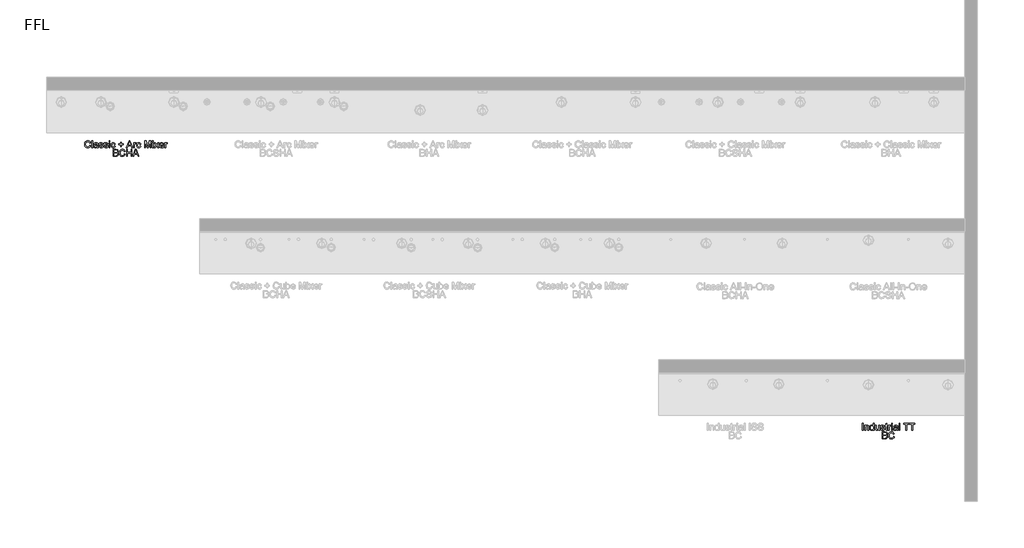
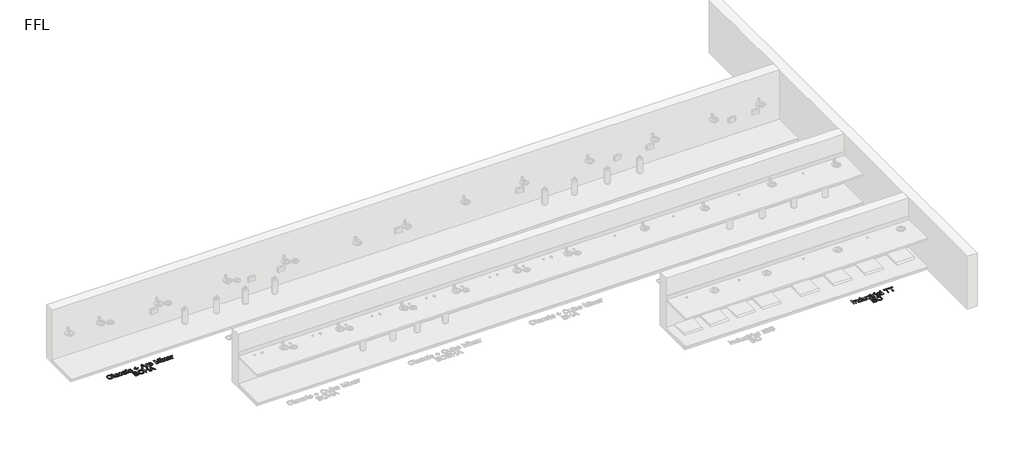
# One storey, part 5 of 13: 2 proxies.
"""IFC4 building model written with IfcOpenShell, lengths in millimetres."""

import ifcopenshell
import ifcopenshell.guid

model = None  # the IFC model being written
_history = None  # IfcOwnerHistory: only IFC2X3 demands one
_inside = {}  # id of a spatial element -> (the spatial element, [elements in it])
_under = {}  # id of a project, library or spatial element -> (it, [spatial elements below it])
_declared = {}  # id of a project -> (the project, [libraries it declares])
_typed = {}  # id of a type object -> (the type object, [elements of that type])
_made_of = {}  # id of a material, layer set ... -> (it, [elements and type objects made of it])


def new_model(schema):
    """Start an empty IFC model of exactly this schema.

    Asked for "IFC4X3", IfcOpenShell would pick the latest addendum, in which some entities
    have other attributes; the version numbers below select the first issue.
    IFC2X3 requires an IfcOwnerHistory on every rooted entity: one is made here for all.
    """
    global model, _history
    if schema == "IFC4X3":
        model = ifcopenshell.file(schema_version=(4, 3, 0, 0))
    else:
        model = ifcopenshell.file(schema=schema)
    _inside.clear()
    _under.clear()
    _declared.clear()
    _typed.clear()
    _made_of.clear()
    _history = None
    if model.schema == "IFC2X3":
        org = make("IfcOrganization", Name="unknown")
        user = make(
            "IfcPersonAndOrganization",
            ThePerson=make("IfcPerson", FamilyName="unknown"),
            TheOrganization=org,
        )
        app = make(
            "IfcApplication",
            ApplicationDeveloper=org,
            Version="unknown",
            ApplicationFullName="unknown",
            ApplicationIdentifier="unknown",
        )
        _history = make(
            "IfcOwnerHistory",
            OwningUser=user,
            OwningApplication=app,
            ChangeAction="ADDED",
            CreationDate=0,
        )
    return model


def make(cls, **values):
    """One entity of the class cls with the attributes given. An attribute that is None is left unset."""
    return model.create_entity(
        cls, **{name: value for name, value in values.items() if value is not None}
    )


def rooted(cls, **values):
    """An entity with a GlobalId (a new one), such as an element, a storey or a relation."""
    return make(cls, GlobalId=ifcopenshell.guid.new(), OwnerHistory=_history, **values)


def si_unit(unit_type, name, prefix=None):
    """IfcSIUnit, for example si_unit("LENGTHUNIT", "METRE", prefix="MILLI")."""
    return make("IfcSIUnit", UnitType=unit_type, Prefix=prefix, Name=name)


def assignment(units):
    """IfcUnitAssignment: the units of a project."""
    return None if units is None else make("IfcUnitAssignment", Units=units)


def point(xyz):
    """IfcCartesianPoint."""
    return None if xyz is None else make("IfcCartesianPoint", Coordinates=xyz)


def direction(xyz):
    """IfcDirection."""
    return None if xyz is None else make("IfcDirection", DirectionRatios=xyz)


def frame(location, z_axis=None, x_axis=None):
    """IfcAxis2Placement3D, a coordinate frame: its origin and axes. An axis left out is left unset."""
    return make(
        "IfcAxis2Placement3D",
        Location=point(location),
        Axis=direction(z_axis),
        RefDirection=direction(x_axis),
    )


def origin():
    """The frame at (0, 0, 0) with its axes left unset."""
    return frame((0.0, 0.0, 0.0))


def origin_with_axes():
    """The frame at (0, 0, 0) with the z axis (0, 0, 1) and the x axis (1, 0, 0) written out."""
    return frame((0.0, 0.0, 0.0), z_axis=(0.0, 0.0, 1.0), x_axis=(1.0, 0.0, 0.0))


def place(relative_to, where):
    """IfcLocalPlacement: puts the frame where relative to a parent placement (None: the world)."""
    return make(
        "IfcLocalPlacement", PlacementRelTo=relative_to, RelativePlacement=where
    )


def context(
    kind, dimensions, precision=None, world=None, true_north=None, identifier=None
):
    """IfcGeometricRepresentationContext, for example the 3D "Model" context."""
    return make(
        "IfcGeometricRepresentationContext",
        ContextIdentifier=identifier,
        ContextType=kind,
        CoordinateSpaceDimension=dimensions,
        Precision=precision,
        WorldCoordinateSystem=world,
        TrueNorth=true_north,
    )


def project(units=None, contexts=None):
    """IfcProject with its units and contexts."""
    return rooted(
        "IfcProject",
        Name="project",
        RepresentationContexts=contexts,
        UnitsInContext=assignment(units),
    )


def spatial(cls, under=None, at=None, **own):
    """A site, building, storey or space (cls), placed at a placement, below another one or the project."""
    s = rooted(cls, ObjectPlacement=at, **own)
    if under is not None:
        _under.setdefault(under.id(), (under, []))[1].append(s)
    return s


def polyline(points):
    """IfcPolyline through the points."""
    return make("IfcPolyline", Points=[point(p) for p in points])


def outline(outer, holes=None, kind="AREA"):
    """IfcArbitraryClosedProfileDef: a profile drawn as a closed curve; with holes, ...WithVoids."""
    if holes is None:
        return make("IfcArbitraryClosedProfileDef", ProfileType=kind, OuterCurve=outer)
    return make(
        "IfcArbitraryProfileDefWithVoids",
        ProfileType=kind,
        OuterCurve=outer,
        InnerCurves=holes,
    )


def extrude(swept, where, along, depth):
    """IfcExtrudedAreaSolid: the profile swept, set in the frame where, extruded along a direction by depth."""
    return make(
        "IfcExtrudedAreaSolid",
        SweptArea=swept,
        Position=where,
        ExtrudedDirection=direction(along),
        Depth=depth,
    )


def shape(context_of_items, identifier, shape_type, items):
    """IfcShapeRepresentation: the items that make up one representation, for example the "Body"."""
    return make(
        "IfcShapeRepresentation",
        ContextOfItems=context_of_items,
        RepresentationIdentifier=identifier,
        RepresentationType=shape_type,
        Items=items,
    )


def made_of(thing, what):
    """Note that an element or type object is made of a material, layer set ...; save() writes the relation."""
    if what is not None:
        _made_of.setdefault(what.id(), (what, []))[1].append(thing)
    return thing


def element(
    cls,
    number,
    at=None,
    inside=None,
    cuts=None,
    type_object=None,
    material=None,
    context=None,
    identifier="Body",
    shape_type=None,
    held_by="IfcProductDefinitionShape",
    body=None,
    shapes=None,
    **own,
):
    """One element of the class cls, such as IfcWall. Its Tag is "e" and its number.

    at: its placement. inside: the storey or other place that contains it. cuts: it is an
    opening in that element (IfcRelVoidsElement). A single representation is given by context,
    identifier, shape_type and body (its items); several are given by shapes. held_by: the class
    of the entity that holds the representations. save() writes the other relations.
    """
    e = rooted(cls, Tag="e%d" % number, ObjectPlacement=at, **own)
    if body is not None:
        shapes = [shape(context, identifier, shape_type, body)]
    if shapes is not None:
        e.Representation = make(held_by, Representations=shapes)
    if inside is not None:
        _inside.setdefault(inside.id(), (inside, []))[1].append(e)
    if cuts is not None:
        rooted(
            "IfcRelVoidsElement", RelatingBuildingElement=cuts, RelatedOpeningElement=e
        )
    if type_object is not None:
        _typed.setdefault(type_object.id(), (type_object, []))[1].append(e)
    return made_of(e, material)


def aggregate(whole, parts):
    """IfcRelAggregates: a whole, such as a stair, and the parts it consists of."""
    return rooted("IfcRelAggregates", RelatingObject=whole, RelatedObjects=parts)


def save(model, path):
    """Write the relations noted so far, then the file.

    IfcRelAggregates (storeys below a building ...), IfcRelContainedInSpatialStructure (elements
    in a storey), IfcRelDefinesByType, IfcRelAssociatesMaterial and IfcRelDeclares: one each for
    every whole, place, type object, material and project.
    """
    for whole, parts in _under.values():
        aggregate(whole, parts)
    for where, things in _inside.values():
        rooted(
            "IfcRelContainedInSpatialStructure",
            RelatedElements=things,
            RelatingStructure=where,
        )
    for kind, things in _typed.values():
        rooted("IfcRelDefinesByType", RelatedObjects=things, RelatingType=kind)
    for what, things in _made_of.values():
        rooted("IfcRelAssociatesMaterial", RelatedObjects=things, RelatingMaterial=what)
    for by, libraries in _declared.values():
        rooted("IfcRelDeclares", RelatingContext=by, RelatedDefinitions=libraries)
    model.write(path)


model = new_model("IFC4")

# Units and contexts
model_context = context("Model", 3, world=origin())
ifc_project = project(units=[si_unit("LENGTHUNIT", "METRE", prefix="MILLI")], contexts=[model_context])

# Site, building, storey
site = spatial("IfcSite", under=ifc_project)
building = spatial("IfcBuilding", under=site)
storey = spatial("IfcBuildingStorey", under=building, Name="FFL", Elevation=0.0)

# Proxies
placement = place(None, origin())
element("IfcBuildingElementProxy", 1, Name="150mm Arial", ObjectType="150mm Arial", at=placement, inside=storey, context=model_context, shape_type="SweptSolid", body=[
    extrude(outline(polyline([(10353.2380409, -2376.1981691), (10353.2380409, -2228.5058614), (10371.6995794, -2228.5058614), (10371.6995794, -2376.1981691), (10353.2380409, -2376.1981691)])), origin_with_axes(), (0.0, 0.0, 1.0), 5.0),
    extrude(outline(polyline([(10406.314964, -2376.1981691), (10406.314964, -2267.7366307), (10424.7765025, -2267.7366307), (10424.7765025, -2282.8808614), (10438.893089, -2269.7919191), (10458.1659255, -2265.4289383), (10475.5998198, -2268.9445633), (10487.4988582, -2278.1753326), (10493.033714, -2291.7510537), (10494.0072717, -2309.5996114), (10494.0072717, -2376.1981691), (10475.5457332, -2376.1981691), (10475.5457332, -2312.0875922), (10473.4183294, -2295.7534576), (10465.9003005, -2287.1176403), (10453.2260217, -2283.8904768), (10442.4132212, -2285.7023758), (10433.1959736, -2291.138073), (10426.8813703, -2301.6398758), (10424.7765025, -2318.6500922), (10424.7765025, -2376.1981691), (10406.314964, -2376.1981691)])), origin_with_axes(), (0.0, 0.0, 1.0), 5.0),
    extrude(outline(polyline([(10586.314964, -2376.1981691), (10586.314964, -2358.7823037), (10574.1004207, -2373.574972), (10557.2164063, -2378.5058614), (10545.2813102, -2376.7210057), (10534.3558294, -2371.3664383), (10525.1070313, -2362.8162581), (10518.2019832, -2351.4445633), (10513.9021034, -2337.7110898), (10512.4688102, -2322.075573), (10517.7512621, -2292.6885537), (10524.3498198, -2281.0329047), (10533.580589, -2272.4601883), (10544.744952, -2267.1867508), (10557.1442909, -2265.4289383), (10574.1635217, -2270.4589864), (10586.314964, -2283.5298999), (10586.314964, -2228.5058614), (10604.7765025, -2228.5058614), (10604.7765025, -2376.1981691), (10586.314964, -2376.1981691)]), holes=[polyline([(10530.9303486, -2322.0034576), (10533.0126803, -2338.7026763), (10539.2596755, -2350.5791787), (10548.3371996, -2357.6780369), (10558.9111178, -2360.044323), (10569.4805289, -2357.78621), (10578.3281852, -2351.011871), (10584.3182693, -2339.5951042), (10586.314964, -2323.4097076), (10584.2822116, -2305.7143951), (10578.1839544, -2293.4457653), (10569.1109376, -2286.2792989), (10558.1539063, -2283.8904768), (10547.471815, -2286.1846475), (10538.7188102, -2293.0671595), (10532.877464, -2304.8895754), (10530.9303486, -2322.0034576)])]), origin_with_axes(), (0.0, 0.0, 1.0), 5.0),
    extrude(outline(polyline([(10701.6995794, -2376.1981691), (10701.6995794, -2357.5563422), (10687.2404448, -2373.2684816), (10668.3822717, -2378.5058614), (10651.0204928, -2374.8279768), (10639.049339, -2365.5972076), (10633.5505409, -2352.0034576), (10632.4688102, -2334.839996), (10632.4688102, -2267.7366307), (10650.9303486, -2267.7366307), (10650.9303486, -2326.1500922), (10652.0481371, -2344.9722076), (10659.3498198, -2356.0238903), (10673.1058294, -2360.044323), (10688.5204928, -2355.933746), (10698.7067909, -2344.7378326), (10701.6995794, -2324.1669191), (10701.6995794, -2267.7366307), (10720.1611178, -2267.7366307), (10720.1611178, -2376.1981691), (10701.6995794, -2376.1981691)])), origin_with_axes(), (0.0, 0.0, 1.0), 5.0),
    extrude(outline(polyline([(10738.6226563, -2343.8904768), (10757.0841948, -2341.5827845), (10759.9958534, -2349.4794191), (10765.6298678, -2355.2847076), (10785.2091948, -2360.044323), (10804.0313102, -2355.6813422), (10810.1611178, -2345.4409576), (10803.9952525, -2337.1476883), (10784.9928486, -2331.8832653), (10757.1923678, -2322.8508133), (10745.0589544, -2312.3039383), (10740.9303486, -2297.4121114), (10744.2476563, -2283.6561018), (10753.2981371, -2273.1452845), (10765.0349159, -2267.6825441), (10780.9183294, -2265.4289383), (10803.3822717, -2269.0527364), (10817.6611178, -2278.8604287), (10824.0072717, -2295.4289383), (10805.5457332, -2297.7366307), (10798.6046275, -2287.5503326), (10782.3606371, -2283.8904768), (10764.6923678, -2287.388073), (10759.3918871, -2295.5371114), (10761.5914063, -2300.9097076), (10768.4784255, -2304.9842268), (10784.3798678, -2308.9145153), (10811.4772236, -2317.6044191), (10824.0613582, -2327.4481691), (10828.6226563, -2343.4938422), (10823.268089, -2361.1621114), (10807.8173678, -2373.980621), (10784.9567909, -2378.5058614), (10766.3420073, -2376.324371), (10752.7572717, -2369.7798999), (10743.6887621, -2358.9445633), (10738.6226563, -2343.8904768)])), origin_with_axes(), (0.0, 0.0, 1.0), 5.0),
    extrude(outline(polyline([(10888.6226563, -2360.8015345), (10890.9303486, -2376.7390345), (10877.1202525, -2378.5058614), (10861.6515025, -2375.4409576), (10853.9351563, -2367.4000922), (10851.6995794, -2346.450573), (10851.6995794, -2286.1981691), (10837.8534255, -2286.1981691), (10837.8534255, -2267.7366307), (10851.6995794, -2267.7366307), (10851.6995794, -2241.3784576), (10870.1611178, -2230.5250922), (10870.1611178, -2267.7366307), (10888.6226563, -2267.7366307), (10888.6226563, -2286.1981691), (10870.1611178, -2286.1981691), (10870.1611178, -2345.9097076), (10871.1346755, -2355.4289383), (10874.2897236, -2358.8003326), (10880.5817909, -2360.044323), (10888.6226563, -2360.8015345)])), origin_with_axes(), (0.0, 0.0, 1.0), 5.0),
    extrude(outline(polyline([(10907.0841948, -2376.1981691), (10907.0841948, -2267.7366307), (10923.2380409, -2267.7366307), (10923.2380409, -2283.7823037), (10934.7043871, -2268.9986499), (10946.2428486, -2265.4289383), (10964.7765025, -2271.1260537), (10958.6106371, -2287.6765345), (10945.6298678, -2283.8904768), (10935.1911659, -2287.5323037), (10928.5385217, -2297.6284576), (10925.5457332, -2319.1909576), (10925.5457332, -2376.1981691), (10907.0841948, -2376.1981691)])), origin_with_axes(), (0.0, 0.0, 1.0), 5.0),
    extrude(outline(polyline([(10976.314964, -2376.1981691), (10976.314964, -2267.7366307), (10994.7765025, -2267.7366307), (10994.7765025, -2376.1981691), (10976.314964, -2376.1981691)])), origin_with_axes(), (0.0, 0.0, 1.0), 5.0),
    extrude(outline(polyline([(10976.314964, -2246.9673999), (10976.314964, -2228.5058614), (10994.7765025, -2228.5058614), (10994.7765025, -2246.9673999), (10976.314964, -2246.9673999)])), origin_with_axes(), (0.0, 0.0, 1.0), 5.0),
    extrude(outline(polyline([(11091.6995794, -2362.3520153), (11073.7969352, -2374.8640345), (11054.0192909, -2378.5058614), (11038.5911058, -2376.3153566), (11027.2103967, -2369.7438422), (11020.1926683, -2359.7648758), (11017.8534255, -2347.3520153), (11021.3870794, -2332.7486499), (11030.6719352, -2322.1476883), (11043.5986178, -2316.089996), (11059.5721755, -2313.3135537), (11091.5914063, -2306.9673999), (11091.6995794, -2302.856823), (11090.4285457, -2294.6176403), (11086.6154448, -2289.2270153), (11078.0878005, -2285.2246114), (11066.2067909, -2283.8904768), (11047.5289063, -2287.4421595), (11038.6226563, -2300.044323), (11020.1611178, -2297.7366307), (11028.1478967, -2279.7077845), (11044.2296275, -2269.1428807), (11068.5865986, -2265.4289383), (11090.9603967, -2268.7101883), (11103.5986178, -2276.949371), (11109.2596755, -2289.4794191), (11110.1611178, -2305.6332653), (11110.1611178, -2328.6020153), (11111.0986178, -2360.6753326), (11114.7765025, -2376.1981691), (11096.314964, -2376.1981691), (11091.6995794, -2362.3520153)]), holes=[polyline([(11091.6995794, -2325.4289383), (11061.9159255, -2331.089996), (11046.0325121, -2334.0827845), (11038.8390025, -2338.950573), (11036.314964, -2346.0539383), (11041.8137621, -2356.0419191), (11057.9495794, -2360.044323), (11076.627464, -2355.6272557), (11088.6707332, -2344.9361499), (11091.5914063, -2330.6573037), (11091.6995794, -2325.4289383)])]), origin_with_axes(), (0.0, 0.0, 1.0), 5.0),
    extrude(outline(polyline([(11135.5457332, -2376.1981691), (11135.5457332, -2228.5058614), (11154.0072717, -2228.5058614), (11154.0072717, -2376.1981691), (11135.5457332, -2376.1981691)])), origin_with_axes(), (0.0, 0.0, 1.0), 5.0),
    extrude(outline(polyline([(11278.6226563, -2376.1981691), (11278.6226563, -2246.9673999), (11230.1611178, -2246.9673999), (11230.1611178, -2228.5058614), (11345.5457332, -2228.5058614), (11345.5457332, -2246.9673999), (11297.0841948, -2246.9673999), (11297.0841948, -2376.1981691), (11278.6226563, -2376.1981691)])), origin_with_axes(), (0.0, 0.0, 1.0), 5.0),
    extrude(outline(polyline([(11403.2380409, -2376.1981691), (11403.2380409, -2246.9673999), (11354.7765025, -2246.9673999), (11354.7765025, -2228.5058614), (11470.1611178, -2228.5058614), (11470.1611178, -2246.9673999), (11421.6995794, -2246.9673999), (11421.6995794, -2376.1981691), (11403.2380409, -2376.1981691)])), origin_with_axes(), (0.0, 0.0, 1.0), 5.0),
    extrude(outline(polyline([(10779.0072717, -2558.5058614), (10779.0072717, -2410.8135537), (10835.3654448, -2410.8135537), (10862.9676082, -2415.1585057), (10872.2434496, -2420.6708254), (10879.2656852, -2428.5178807), (10885.1611178, -2447.4121114), (10880.2031852, -2464.6657172), (10865.221214, -2477.7366307), (10875.682452, -2483.199371), (10883.4123198, -2491.5106691), (10888.1854568, -2502.1206451), (10889.7765025, -2514.4794191), (10885.4315505, -2534.3291787), (10874.6683294, -2548.4637941), (10858.6046275, -2555.9637941), (10834.9327525, -2558.5058614), (10779.0072717, -2558.5058614)]), holes=[polyline([(10797.4688102, -2540.044323), (10835.3293871, -2540.044323), (10849.0313102, -2539.3231691), (10860.6238582, -2535.3027364), (10868.3041467, -2527.0996114), (10871.314964, -2514.6597076), (10867.7813102, -2500.308746), (10856.3329928, -2491.7450441), (10833.5265025, -2489.2750922), (10797.4688102, -2489.2750922), (10797.4688102, -2540.044323)]), polyline([(10797.4688102, -2470.8135537), (10831.1827525, -2470.8135537), (10850.8702525, -2469.2270153), (10862.7152044, -2462.3940826), (10866.6995794, -2450.3688422), (10862.9856371, -2438.325573), (10852.3486178, -2431.2041787), (10828.6226563, -2429.2750922), (10797.4688102, -2429.2750922), (10797.4688102, -2470.8135537)])]), origin_with_axes(), (0.0, 0.0, 1.0), 5.0),
    extrude(outline(polyline([(11019.0072717, -2506.0058614), (11037.4688102, -2510.7654768), (11028.9501803, -2532.2783975), (11015.5817909, -2547.9950441), (10998.0216948, -2557.6089263), (10976.9279448, -2560.8135537), (10955.5141828, -2558.3886739), (10938.5084736, -2551.1140345), (10925.4736178, -2539.2420393), (10915.9724159, -2523.0250922), (10910.1716347, -2503.9595874), (10908.2380409, -2483.5419191), (10910.4240385, -2462.0064624), (10916.9820313, -2443.4097076), (10927.5694712, -2428.3420994), (10941.8438102, -2417.3940826), (10958.7728967, -2410.7279167), (10977.3245794, -2408.5058614), (10997.5664664, -2411.3814624), (11014.3017428, -2420.0082653), (11027.0075722, -2433.8544191), (11035.1611178, -2452.388073), (11016.6995794, -2456.7871114), (11010.299339, -2443.3240706), (11001.5553486, -2434.0887941), (10990.3594352, -2428.7477484), (10976.6034255, -2426.9673999), (10960.7470553, -2428.9415585), (10947.721214, -2434.8640345), (10937.8368991, -2444.1128326), (10931.4051082, -2456.0659576), (10926.6995794, -2483.5058614), (10932.2704928, -2515.308746), (10939.3918871, -2527.1852484), (10949.6142428, -2535.6272557), (10961.869351, -2540.6708254), (10975.0890025, -2542.3520153), (10990.4991587, -2540.0623518), (11003.3402044, -2533.1933614), (11013.0352164, -2521.8171595), (11019.0072717, -2506.0058614)])), origin_with_axes(), (0.0, 0.0, 1.0), 5.0),
])
element("IfcBuildingElementProxy", 2, Name="150mm Arial", ObjectType="150mm Arial", at=placement, inside=storey, context=model_context, shape_type="SweptSolid", body=[
    extrude(outline(polyline([(-6051.580362, 3676.3018309), (-6033.1188235, 3671.5422155), (-6041.6374533, 3650.0292948), (-6055.0058427, 3634.3126482), (-6072.5659389, 3624.698766), (-6093.6596889, 3621.4941386), (-6115.0734509, 3623.9190184), (-6132.07916, 3631.1936578), (-6145.1140158, 3643.065653), (-6154.6152177, 3659.2826001), (-6160.415999, 3678.3481049), (-6162.3495927, 3698.7657732), (-6160.1635951, 3720.3012299), (-6153.6056024, 3738.8979847), (-6143.0181625, 3753.9655929), (-6128.7438235, 3764.9136097), (-6111.814737, 3771.5797756), (-6093.2630543, 3773.8018309), (-6073.0211673, 3770.9262299), (-6056.2858908, 3762.299427), (-6043.5800615, 3748.4532732), (-6035.4265158, 3729.9196193), (-6053.8880543, 3725.5205809), (-6060.2882947, 3738.9836217), (-6069.032285, 3748.2188982), (-6080.2281985, 3753.5599439), (-6093.9842081, 3755.3402924), (-6109.8405783, 3753.3661338), (-6122.8664197, 3747.4436578), (-6132.7507346, 3738.1948597), (-6139.1825254, 3726.2417347), (-6143.8880543, 3698.8018309), (-6138.3171408, 3666.9989463), (-6131.1957466, 3655.1224439), (-6120.9733908, 3646.6804367), (-6108.7182826, 3641.6368669), (-6095.4986312, 3639.955677), (-6080.088475, 3642.2453405), (-6067.2474293, 3649.1143309), (-6057.5524173, 3660.4905328), (-6051.580362, 3676.3018309)])), origin_with_axes(), (0.0, 0.0, 1.0), 5.0),
    extrude(outline(polyline([(-6010.0419004, 3623.8018309), (-6010.0419004, 3771.4941386), (-5991.580362, 3771.4941386), (-5991.580362, 3623.8018309), (-6010.0419004, 3623.8018309)])), origin_with_axes(), (0.0, 0.0, 1.0), 5.0),
    extrude(outline(polyline([(-5894.657285, 3637.6479847), (-5912.5599293, 3625.1359655), (-5932.3375735, 3621.4941386), (-5947.7657586, 3623.6846434), (-5959.1464677, 3630.2561578), (-5966.1641961, 3640.2351242), (-5968.5034389, 3652.6479847), (-5964.969785, 3667.2513501), (-5955.6849293, 3677.8523117), (-5942.7582466, 3683.910004), (-5926.7846889, 3686.6864463), (-5894.7654581, 3693.0326001), (-5894.657285, 3697.143177), (-5895.9283187, 3705.3823597), (-5899.7414197, 3710.7729847), (-5908.2690639, 3714.7753886), (-5920.1500735, 3716.1095232), (-5938.8279581, 3712.5578405), (-5947.7342081, 3699.955677), (-5966.1957466, 3702.2633693), (-5958.2089677, 3720.2922155), (-5942.127237, 3730.8571193), (-5917.7702658, 3734.5710617), (-5895.3964677, 3731.2898117), (-5882.7582466, 3723.050629), (-5877.0971889, 3710.5205809), (-5876.1957466, 3694.3667347), (-5876.1957466, 3671.3979847), (-5875.2582466, 3639.3246674), (-5871.580362, 3623.8018309), (-5890.0419004, 3623.8018309), (-5894.657285, 3637.6479847)]), holes=[polyline([(-5894.657285, 3674.5710617), (-5924.4409389, 3668.910004), (-5940.3243524, 3665.9172155), (-5947.517862, 3661.049427), (-5950.0419004, 3653.9460617), (-5944.5431024, 3643.9580809), (-5928.407285, 3639.955677), (-5909.7294004, 3644.3727443), (-5897.6861312, 3655.0638501), (-5894.7654581, 3669.3426963), (-5894.657285, 3674.5710617)])]), origin_with_axes(), (0.0, 0.0, 1.0), 5.0),
    extrude(outline(polyline([(-5857.7342081, 3656.1095232), (-5839.2726697, 3658.4172155), (-5836.361011, 3650.5205809), (-5830.7269966, 3644.7152924), (-5811.1476697, 3639.955677), (-5792.3255543, 3644.3186578), (-5786.1957466, 3654.5590424), (-5792.361612, 3662.8523117), (-5811.3640158, 3668.1167347), (-5839.1644966, 3677.1491867), (-5851.29791, 3687.6960617), (-5855.4265158, 3702.5878886), (-5852.1092081, 3716.3438982), (-5843.0587274, 3726.8547155), (-5831.3219485, 3732.3174559), (-5815.438535, 3734.5710617), (-5792.9745927, 3730.9472636), (-5778.6957466, 3721.1395713), (-5772.3495927, 3704.5710617), (-5790.8111312, 3702.2633693), (-5797.752237, 3712.4496674), (-5813.9962274, 3716.1095232), (-5831.6644966, 3712.611927), (-5836.9649774, 3704.4628886), (-5834.7654581, 3699.0902924), (-5827.8784389, 3695.0157732), (-5811.9769966, 3691.0854847), (-5784.8796408, 3682.3955809), (-5772.2955062, 3672.5518309), (-5767.7342081, 3656.5061578), (-5773.0887754, 3638.8378886), (-5788.5394966, 3626.019379), (-5811.4000735, 3621.4941386), (-5830.0148572, 3623.675629), (-5843.5995927, 3630.2201001), (-5852.6681024, 3641.0554367), (-5857.7342081, 3656.1095232)])), origin_with_axes(), (0.0, 0.0, 1.0), 5.0),
    extrude(outline(polyline([(-5753.8880543, 3656.1095232), (-5735.4265158, 3658.4172155), (-5732.5148572, 3650.5205809), (-5726.8808427, 3644.7152924), (-5707.3015158, 3639.955677), (-5688.4794004, 3644.3186578), (-5682.3495927, 3654.5590424), (-5688.5154581, 3662.8523117), (-5707.517862, 3668.1167347), (-5735.3183427, 3677.1491867), (-5747.4517562, 3687.6960617), (-5751.580362, 3702.5878886), (-5748.2630543, 3716.3438982), (-5739.2125735, 3726.8547155), (-5727.4757947, 3732.3174559), (-5711.5923812, 3734.5710617), (-5689.1284389, 3730.9472636), (-5674.8495927, 3721.1395713), (-5668.5034389, 3704.5710617), (-5686.9649774, 3702.2633693), (-5693.9060831, 3712.4496674), (-5710.1500735, 3716.1095232), (-5727.8183427, 3712.611927), (-5733.1188235, 3704.4628886), (-5730.9193043, 3699.0902924), (-5724.032285, 3695.0157732), (-5708.1308427, 3691.0854847), (-5681.033487, 3682.3955809), (-5668.4493524, 3672.5518309), (-5663.8880543, 3656.5061578), (-5669.2426216, 3638.8378886), (-5684.6933427, 3626.019379), (-5707.5539197, 3621.4941386), (-5726.1687033, 3623.675629), (-5739.7534389, 3630.2201001), (-5748.8219485, 3641.0554367), (-5753.8880543, 3656.1095232)])), origin_with_axes(), (0.0, 0.0, 1.0), 5.0),
    extrude(outline(polyline([(-5643.1188235, 3623.8018309), (-5643.1188235, 3732.2633693), (-5624.657285, 3732.2633693), (-5624.657285, 3623.8018309), (-5643.1188235, 3623.8018309)])), origin_with_axes(), (0.0, 0.0, 1.0), 5.0),
    extrude(outline(polyline([(-5643.1188235, 3753.0326001), (-5643.1188235, 3771.4941386), (-5624.657285, 3771.4941386), (-5624.657285, 3753.0326001), (-5643.1188235, 3753.0326001)])), origin_with_axes(), (0.0, 0.0, 1.0), 5.0),
    extrude(outline(polyline([(-5527.7342081, 3663.0326001), (-5509.2726697, 3660.7249078), (-5514.4199052, 3644.3051362), (-5524.0923812, 3631.8967828), (-5537.3796408, 3624.0947996), (-5553.3712274, 3621.4941386), (-5573.009148, 3625.1224439), (-5588.3652177, 3636.0073597), (-5598.2765759, 3653.6711217), (-5601.580362, 3677.6359655), (-5595.9373331, 3708.3030328), (-5588.8159389, 3719.8009294), (-5578.7378139, 3728.0085617), (-5566.681023, 3732.9304367), (-5553.6236312, 3734.5710617), (-5538.0241721, 3732.3174559), (-5525.5527177, 3725.5566386), (-5516.6059028, 3714.6491867), (-5511.580362, 3699.955677), (-5530.0419004, 3697.6479847), (-5538.6056024, 3711.4761097), (-5553.4794004, 3716.1095232), (-5565.4099894, 3713.8288742), (-5574.8796408, 3706.986927), (-5581.0590278, 3695.2140905), (-5583.1188235, 3678.1407732), (-5581.1041, 3660.8375881), (-5575.0599293, 3649.0241867), (-5565.7615519, 3642.2228044), (-5553.9842081, 3639.955677), (-5544.4244125, 3641.3709415), (-5536.5863716, 3645.6167347), (-5530.884749, 3652.8012299), (-5527.7342081, 3663.0326001)])), origin_with_axes(), (0.0, 0.0, 1.0), 5.0),
    extrude(outline(polyline([(-5398.5034389, 3646.878754), (-5398.5034389, 3686.1095232), (-5437.7342081, 3686.1095232), (-5437.7342081, 3704.5710617), (-5398.5034389, 3704.5710617), (-5398.5034389, 3743.8018309), (-5380.0419004, 3743.8018309), (-5380.0419004, 3704.5710617), (-5340.8111312, 3704.5710617), (-5340.8111312, 3686.1095232), (-5380.0419004, 3686.1095232), (-5380.0419004, 3646.878754), (-5398.5034389, 3646.878754)])), origin_with_axes(), (0.0, 0.0, 1.0), 5.0),
    extrude(outline(polyline([(-5272.626035, 3623.8018309), (-5213.6717081, 3771.4941386), (-5197.9505543, 3771.4941386), (-5138.9962274, 3623.8018309), (-5158.5034389, 3623.8018309), (-5175.4144966, 3669.955677), (-5236.2438235, 3669.955677), (-5253.1188235, 3623.8018309), (-5272.626035, 3623.8018309)]), holes=[polyline([(-5229.4649774, 3688.4172155), (-5182.157285, 3688.4172155), (-5195.4625735, 3724.7273117), (-5205.8111312, 3753.0326001), (-5215.0058427, 3727.9003886), (-5229.4649774, 3688.4172155)])]), origin_with_axes(), (0.0, 0.0, 1.0), 5.0),
    extrude(outline(polyline([(-5121.580362, 3623.8018309), (-5121.580362, 3732.2633693), (-5105.4265158, 3732.2633693), (-5105.4265158, 3716.2176963), (-5093.9601697, 3731.0013501), (-5082.4217081, 3734.5710617), (-5063.8880543, 3728.8739463), (-5070.0539197, 3712.3234655), (-5083.0346889, 3716.1095232), (-5093.4733908, 3712.4676963), (-5100.126035, 3702.3715424), (-5103.1188235, 3680.8090424), (-5103.1188235, 3623.8018309), (-5121.580362, 3623.8018309)])), origin_with_axes(), (0.0, 0.0, 1.0), 5.0),
    extrude(outline(polyline([(-4983.1188235, 3663.0326001), (-4964.657285, 3660.7249078), (-4969.8045206, 3644.3051362), (-4979.4769966, 3631.8967828), (-4992.7642562, 3624.0947996), (-5008.7558427, 3621.4941386), (-5028.3937634, 3625.1224439), (-5043.7498331, 3636.0073597), (-5053.6611913, 3653.6711217), (-5056.9649774, 3677.6359655), (-5051.3219485, 3708.3030328), (-5044.2005543, 3719.8009294), (-5034.1224293, 3728.0085617), (-5022.0656384, 3732.9304367), (-5009.0082466, 3734.5710617), (-4993.4087875, 3732.3174559), (-4980.9373331, 3725.5566386), (-4971.9905182, 3714.6491867), (-4966.9649774, 3699.955677), (-4985.4265158, 3697.6479847), (-4993.9902177, 3711.4761097), (-5008.8640158, 3716.1095232), (-5020.7946048, 3713.8288742), (-5030.2642562, 3706.986927), (-5036.4436432, 3695.2140905), (-5038.5034389, 3678.1407732), (-5036.4887153, 3660.8375881), (-5030.4445447, 3649.0241867), (-5021.1461673, 3642.2228044), (-5009.3688235, 3639.955677), (-4999.8090278, 3641.3709415), (-4991.970987, 3645.6167347), (-4986.2693644, 3652.8012299), (-4983.1188235, 3663.0326001)])), origin_with_axes(), (0.0, 0.0, 1.0), 5.0),
    extrude(outline(polyline([(-4888.5034389, 3623.8018309), (-4888.5034389, 3771.4941386), (-4856.736612, 3771.4941386), (-4826.5202658, 3667.3955809), (-4820.4265158, 3645.6527924), (-4813.8279581, 3669.1984655), (-4784.1164197, 3771.4941386), (-4752.3495927, 3771.4941386), (-4752.3495927, 3623.8018309), (-4770.8111312, 3623.8018309), (-4770.8111312, 3753.0326001), (-4807.9144966, 3623.8018309), (-4832.938535, 3623.8018309), (-4870.0419004, 3753.0326001), (-4870.0419004, 3623.8018309), (-4888.5034389, 3623.8018309)])), origin_with_axes(), (0.0, 0.0, 1.0), 5.0),
    extrude(outline(polyline([(-4722.3495927, 3753.0326001), (-4722.3495927, 3771.4941386), (-4703.8880543, 3771.4941386), (-4703.8880543, 3753.0326001), (-4722.3495927, 3753.0326001)])), origin_with_axes(), (0.0, 0.0, 1.0), 5.0),
    extrude(outline(polyline([(-4722.3495927, 3623.8018309), (-4722.3495927, 3732.2633693), (-4703.8880543, 3732.2633693), (-4703.8880543, 3623.8018309), (-4722.3495927, 3623.8018309)])), origin_with_axes(), (0.0, 0.0, 1.0), 5.0),
    extrude(outline(polyline([(-4687.7342081, 3623.8018309), (-4648.2870927, 3678.3210617), (-4685.4265158, 3732.2633693), (-4663.2149774, 3732.2633693), (-4645.2943043, 3706.3018309), (-4636.9289197, 3694.0422155), (-4629.6813235, 3704.066254), (-4609.2726697, 3732.2633693), (-4587.0611312, 3732.2633693), (-4626.0755543, 3678.3210617), (-4588.5034389, 3623.8018309), (-4610.7149774, 3623.8018309), (-4633.3231504, 3656.5782732), (-4637.469785, 3662.5638501), (-4665.5226697, 3623.8018309), (-4687.7342081, 3623.8018309)])), origin_with_axes(), (0.0, 0.0, 1.0), 5.0),
    extrude(outline(polyline([(-4496.4120927, 3656.1095232), (-4478.3111312, 3653.8018309), (-4484.8330663, 3640.1630088), (-4495.2402177, 3629.9676963), (-4509.2982105, 3623.612528), (-4526.7726697, 3621.4941386), (-4548.4343283, 3625.1494871), (-4565.1019966, 3636.1155328), (-4575.7300014, 3653.6801362), (-4579.2726697, 3677.1311578), (-4575.6939437, 3701.3709415), (-4564.9577658, 3719.4989463), (-4548.5154581, 3730.8030328), (-4527.8183427, 3734.5710617), (-4507.7657586, 3730.8120472), (-4491.7426216, 3719.535004), (-4481.2363115, 3701.4430568), (-4477.7342081, 3677.2393309), (-4477.8423812, 3672.2633693), (-4560.8111312, 3672.2633693), (-4557.6155182, 3658.4442588), (-4550.1921408, 3648.285004), (-4539.478499, 3642.0380088), (-4526.4120927, 3639.955677), (-4508.3111312, 3643.8138501), (-4496.4120927, 3656.1095232)]), holes=[polyline([(-4560.8111312, 3690.7249078), (-4496.1957466, 3690.7249078), (-4498.6927418, 3700.4785136), (-4503.5875735, 3707.455677), (-4514.3507947, 3713.9460617), (-4527.8904581, 3716.1095232), (-4540.3348692, 3714.3832612), (-4550.6248331, 3709.2044751), (-4557.7777778, 3701.1320592), (-4560.8111312, 3690.7249078)])]), origin_with_axes(), (0.0, 0.0, 1.0), 5.0),
    extrude(outline(polyline([(-4459.2726697, 3623.8018309), (-4459.2726697, 3732.2633693), (-4443.1188235, 3732.2633693), (-4443.1188235, 3716.2176963), (-4431.6524774, 3731.0013501), (-4420.1140158, 3734.5710617), (-4401.580362, 3728.8739463), (-4407.7462274, 3712.3234655), (-4420.7269966, 3716.1095232), (-4431.1656985, 3712.4676963), (-4437.8183427, 3702.3715424), (-4440.8111312, 3680.8090424), (-4440.8111312, 3623.8018309), (-4459.2726697, 3623.8018309)])), origin_with_axes(), (0.0, 0.0, 1.0), 5.0),
    extrude(outline(polyline([(-5555.4265158, 3441.4941386), (-5555.4265158, 3589.1864463), (-5499.0683427, 3589.1864463), (-5471.4661793, 3584.8414943), (-5462.1903379, 3579.3291746), (-5455.1681024, 3571.4821193), (-5449.2726697, 3552.5878886), (-5454.2306024, 3535.3342828), (-5469.2125735, 3522.2633693), (-5458.7513355, 3516.800629), (-5451.0214677, 3508.4893309), (-5446.2483307, 3497.8793549), (-5444.657285, 3485.5205809), (-5449.002237, 3465.6708213), (-5459.7654581, 3451.5362059), (-5475.82916, 3444.0362059), (-5499.501035, 3441.4941386), (-5555.4265158, 3441.4941386)]), holes=[polyline([(-5536.9649774, 3529.1864463), (-5503.251035, 3529.1864463), (-5483.563535, 3530.7729847), (-5471.7185831, 3537.6059174), (-5467.7342081, 3549.6311578), (-5471.4481504, 3561.674427), (-5482.0851697, 3568.7958213), (-5505.8111312, 3570.7249078), (-5536.9649774, 3570.7249078), (-5536.9649774, 3529.1864463)]), polyline([(-5536.9649774, 3459.955677), (-5499.1044004, 3459.955677), (-5485.4024774, 3460.6768309), (-5473.8099293, 3464.6972636), (-5466.1296408, 3472.9003886), (-5463.1188235, 3485.3402924), (-5466.6524774, 3499.691254), (-5478.1007947, 3508.2549559), (-5500.907285, 3510.7249078), (-5536.9649774, 3510.7249078), (-5536.9649774, 3459.955677)])]), origin_with_axes(), (0.0, 0.0, 1.0), 5.0),
    extrude(outline(polyline([(-5315.4265158, 3493.9941386), (-5296.9649774, 3489.2345232), (-5305.4836072, 3467.7216025), (-5318.8519966, 3452.0049559), (-5336.4120927, 3442.3910737), (-5357.5058427, 3439.1864463), (-5378.9196048, 3441.6113261), (-5395.9253139, 3448.8859655), (-5408.9601697, 3460.7579607), (-5418.4613716, 3476.9749078), (-5424.2621528, 3496.0404126), (-5426.1957466, 3516.4580809), (-5424.009749, 3537.9935376), (-5417.4517562, 3556.5902924), (-5406.8643163, 3571.6579006), (-5392.5899774, 3582.6059174), (-5375.6608908, 3589.2720833), (-5357.1092081, 3591.4941386), (-5336.8673211, 3588.6185376), (-5320.1320447, 3579.9917347), (-5307.4262153, 3566.1455809), (-5299.2726697, 3547.611927), (-5317.7342081, 3543.2128886), (-5324.1344485, 3556.6759294), (-5332.8784389, 3565.9112059), (-5344.0743524, 3571.2522516), (-5357.830362, 3573.0326001), (-5373.6867322, 3571.0584415), (-5386.7125735, 3565.1359655), (-5396.5968884, 3555.8871674), (-5403.0286793, 3543.9340424), (-5407.7342081, 3516.4941386), (-5402.1632947, 3484.691254), (-5395.0419004, 3472.8147516), (-5384.8195447, 3464.3727443), (-5372.5644365, 3459.3291746), (-5359.344785, 3457.6479847), (-5343.9346288, 3459.9376482), (-5331.0935831, 3466.8066386), (-5321.3985711, 3478.1828405), (-5315.4265158, 3493.9941386)])), origin_with_axes(), (0.0, 0.0, 1.0), 5.0),
    extrude(outline(polyline([(-5271.580362, 3441.4941386), (-5271.580362, 3589.1864463), (-5253.1188235, 3589.1864463), (-5253.1188235, 3529.1864463), (-5174.657285, 3529.1864463), (-5174.657285, 3589.1864463), (-5156.1957466, 3589.1864463), (-5156.1957466, 3441.4941386), (-5174.657285, 3441.4941386), (-5174.657285, 3510.7249078), (-5253.1188235, 3510.7249078), (-5253.1188235, 3441.4941386), (-5271.580362, 3441.4941386)])), origin_with_axes(), (0.0, 0.0, 1.0), 5.0),
    extrude(outline(polyline([(-5141.0875735, 3441.4941386), (-5082.1332466, 3589.1864463), (-5066.4120927, 3589.1864463), (-5007.4577658, 3441.4941386), (-5026.9649774, 3441.4941386), (-5043.876035, 3487.6479847), (-5104.705362, 3487.6479847), (-5121.580362, 3441.4941386), (-5141.0875735, 3441.4941386)]), holes=[polyline([(-5097.9265158, 3506.1095232), (-5050.6188235, 3506.1095232), (-5063.924112, 3542.4196193), (-5074.2726697, 3570.7249078), (-5083.4673812, 3545.5926963), (-5097.9265158, 3506.1095232)])]), origin_with_axes(), (0.0, 0.0, 1.0), 5.0),
])

save(model, "model.ifc")
